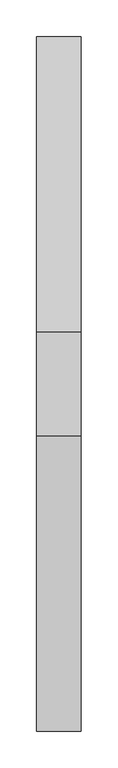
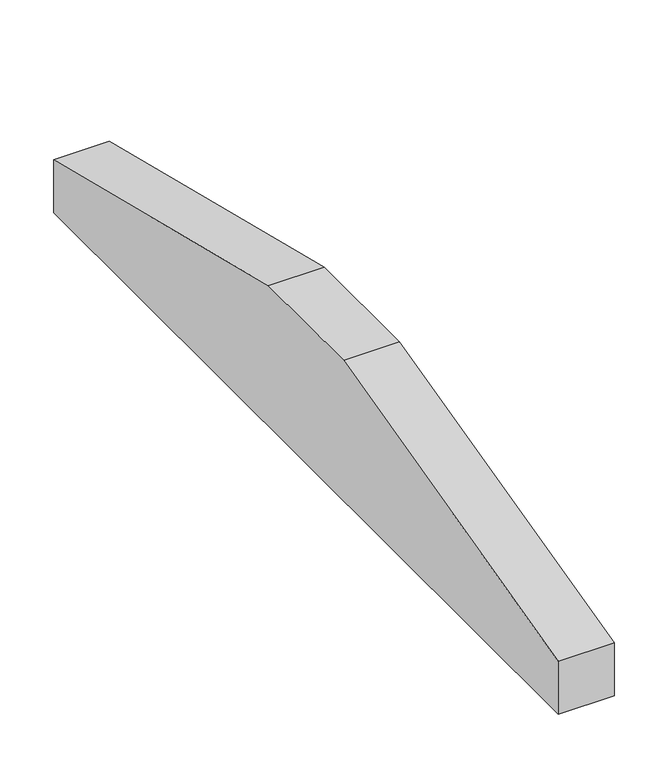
"""IFC4 building model written with IfcOpenShell, lengths in millimetres: proxy geometry, Modelos genéricos 144 : Modelos genéricos 144."""

from ifc_helpers import new_model, si_unit, frame, origin, place, context, project, spatial, polyline, outline, extrude, source, transform, mapped, element, save


def generic_models_82d674ec(model_context):
    return source(origin(), model_context, "Body", "SweptSolid", [
        extrude(outline(polyline([(2018.6238165, 4209.7515316), (2418.6238165, 4110.0203305), (2418.6238165, 4049.7515316), (1478.6238165, 4049.7515316), (1478.6238165, 4110.0203305), (1878.6238165, 4209.7515316), (2018.6238165, 4209.7515316)])), frame((-12616.5527533, 0.0, 0.0), z_axis=(1.0, 0.0, 0.0), x_axis=(0.0, 1.0, 0.0)), (0.0, 0.0, 1.0), 60.0),
    ])


if __name__ == "__main__":
    model = new_model("IFC4")
    model_context = context("Model", 3, world=origin())
    ifc_project = project(units=[si_unit("LENGTHUNIT", "METRE", prefix="MILLI")], contexts=[model_context])
    site = spatial("IfcSite", under=ifc_project)
    building = spatial("IfcBuilding", under=site)
    placement = place(None, origin())
    generic_models_shape = generic_models_82d674ec(model_context)
    element("IfcBuildingElementProxy", 1, Name="Modelos genéricos 144 : Modelos genéricos 144", ObjectType="Modelos genéricos 144 : Modelos genéricos 144", at=placement, inside=building, context=model_context, shape_type="MappedRepresentation", body=[
        mapped(generic_models_shape, transform((0.0, 0.0, 0.0), x_axis=(1.0, 0.0, 0.0), y_axis=(0.0, 1.0, 0.0), z_axis=(0.0, 0.0, 1.0))),
    ])
    save(model, "model.ifc")
